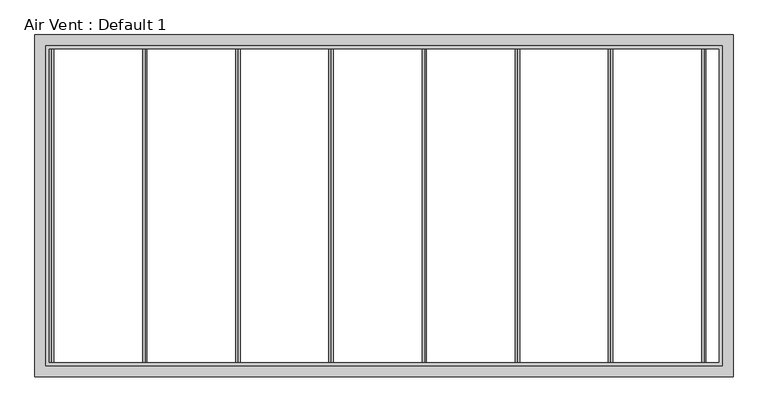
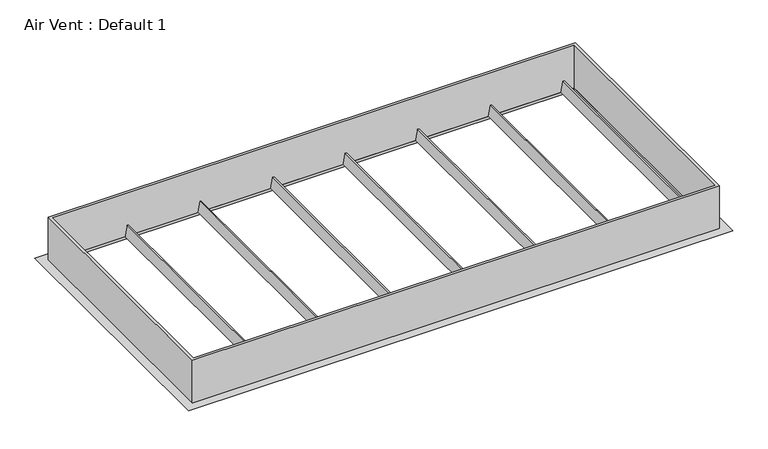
"""IFC4 building model written with IfcOpenShell, lengths in millimetres: proxy geometry, Air Vent : Default 1."""

from ifc_helpers import new_model, si_unit, frame, origin, place, context, project, spatial, polyline, outline, extrude, faceted_brep, source, transform, mapped, element, save


def air_vent_default_1_fb4192dc(model_context):
    return source(origin(), model_context, "Body", "SolidModel", [
        extrude(outline(polyline([(0.0, -3.175), (0.0, 0.0), (546.1, 0.0), (546.1, -3.175), (0.0, -3.175)])), frame((-421.5132292, -273.05, 2438.951333), z_axis=(0.1736481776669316, 0.0, 0.9848077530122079), x_axis=(0.0, 1.0, 0.0)), (0.0, 0.0, 1.0), 25.4),
        extrude(outline(polyline([(0.0, -3.175), (0.0, 0.0), (546.1, 0.0), (546.1, -3.175), (0.0, -3.175)])), frame((-258.8264584, -273.05, 2438.951333), z_axis=(0.1736481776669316, 0.0, 0.9848077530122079), x_axis=(0.0, 1.0, 0.0)), (0.0, 0.0, 1.0), 25.4),
        extrude(outline(polyline([(0.0, -3.1750001), (0.0, 0.0), (546.1, 0.0), (546.1, -3.1750001), (0.0, -3.1750001)])), frame((-96.1396876, -273.05, 2438.951333), z_axis=(0.1736481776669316, 0.0, 0.9848077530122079), x_axis=(0.0, 1.0, 0.0)), (0.0, 0.0, 1.0), 25.4),
        extrude(outline(polyline([(0.0, -3.175), (0.0, 0.0), (546.1, 0.0), (546.1, -3.175), (0.0, -3.175)])), frame((66.5470833, -273.05, 2438.951333), z_axis=(0.1736481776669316, 0.0, 0.9848077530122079), x_axis=(0.0, 1.0, 0.0)), (0.0, 0.0, 1.0), 25.4),
        extrude(outline(polyline([(0.0, -3.175), (0.0, 0.0), (546.1, 0.0), (546.1, -3.175), (0.0, -3.175)])), frame((229.2338541, -273.05, 2438.951333), z_axis=(0.1736481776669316, 0.0, 0.9848077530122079), x_axis=(0.0, 1.0, 0.0)), (0.0, 0.0, 1.0), 25.4),
        extrude(outline(polyline([(0.0, -3.175), (0.0, 0.0), (546.1, 0.0), (546.1, -3.175), (0.0, -3.175)])), frame((391.9206249, -273.05, 2438.951333), z_axis=(0.1736481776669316, 0.0, 0.9848077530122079), x_axis=(0.0, 1.0, 0.0)), (0.0, 0.0, 1.0), 25.4),
        extrude(outline(polyline([(0.0, -3.175), (0.0, 0.0), (546.1, 0.0), (546.1, -3.175), (0.0, -3.175)])), frame((554.6073957, -273.05, 2438.951333), z_axis=(0.1736481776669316, 0.0, 0.9848077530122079), x_axis=(0.0, 1.0, 0.0)), (0.0, 0.0, 1.0), 25.4),
        extrude(outline(polyline([(0.0, -3.175), (0.0, 0.0), (546.1, 0.0), (546.1, -3.175), (0.0, -3.175)])), frame((-584.2, -273.05, 2438.951333), z_axis=(0.1736481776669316, 0.0, 0.9848077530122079), x_axis=(0.0, 1.0, 0.0)), (0.0, 0.0, 1.0), 25.4),
        faceted_brep([(584.2, 273.05, 2438.4), (584.2, 273.05, 2432.05), (584.2, -273.05, 2432.05), (584.2, -273.05, 2438.4), (-584.2, -273.05, 2432.05), (-584.2, -273.05, 2438.4), (-584.2, 273.05, 2432.05), (-584.2, 273.05, 2438.4), (596.9, -285.75, 2432.05), (-596.9, -285.75, 2432.05), (-596.9, 285.75, 2432.05), (596.9, 285.75, 2432.05), (609.6, 298.45, 2438.4), (-609.6, 298.45, 2438.4), (-609.6, -298.45, 2438.4), (609.6, -298.45, 2438.4)], [[[0, 1, 2, 3]], [[3, 2, 4, 5]], [[5, 4, 6, 7]], [[8, 9, 10, 11], [1, 6, 4, 2]], [[12, 13, 14, 15], [3, 5, 7, 0]], [[7, 6, 1, 0]], [[11, 12, 15, 8]], [[8, 15, 14, 9]], [[9, 14, 13, 10]], [[10, 13, 12, 11]]]),
        extrude(outline(polyline([(590.55, 279.4), (590.55, -279.4), (-590.55, -279.4), (-590.55, 279.4), (590.55, 279.4)]), holes=[polyline([(584.2, 273.05), (-584.2, 273.05), (-584.2, -273.05), (584.2, -273.05), (584.2, 273.05)])]), frame((0.0, 0.0, 2438.4), z_axis=(0.0, 0.0, 1.0), x_axis=(1.0, 0.0, 0.0)), (0.0, 0.0, 1.0), 101.6),
    ])


if __name__ == "__main__":
    model = new_model("IFC4")
    model_context = context("Model", 3, world=origin())
    ifc_project = project(units=[si_unit("LENGTHUNIT", "METRE", prefix="MILLI")], contexts=[model_context])
    site = spatial("IfcSite", under=ifc_project)
    building = spatial("IfcBuilding", under=site)
    placement = place(None, origin())
    air_vent_default_1_shape = air_vent_default_1_fb4192dc(model_context)
    element("IfcBuildingElementProxy", 1, Name="Air Vent : Default 1", ObjectType="Air Vent : Default 1", at=placement, inside=building, context=model_context, shape_type="MappedRepresentation", body=[
        mapped(air_vent_default_1_shape, transform((0.0, 0.0, 0.0), x_axis=(1.0, 0.0, 0.0), y_axis=(0.0, 1.0, 0.0), z_axis=(0.0, 0.0, 1.0))),
    ])
    save(model, "model.ifc")
